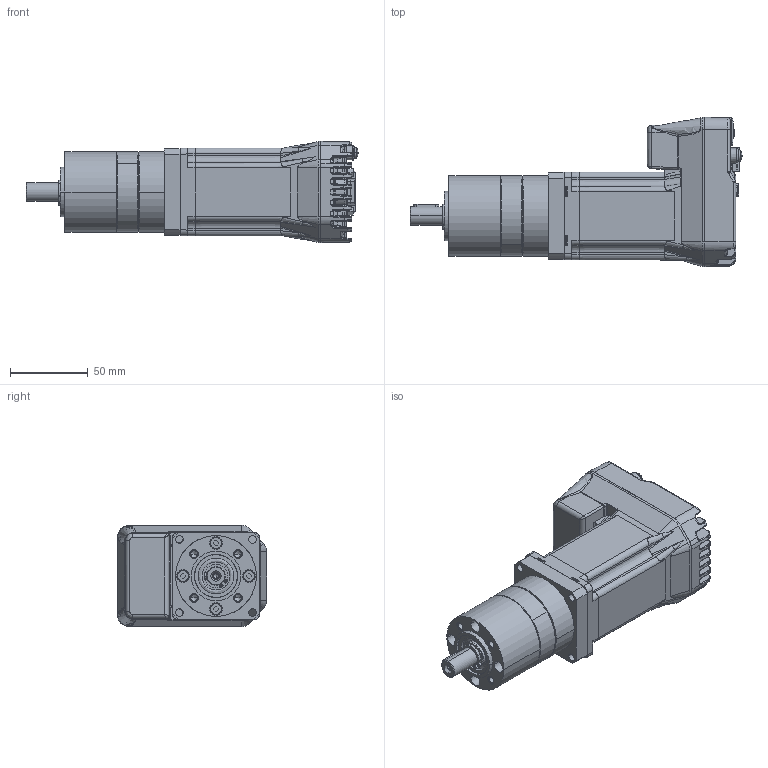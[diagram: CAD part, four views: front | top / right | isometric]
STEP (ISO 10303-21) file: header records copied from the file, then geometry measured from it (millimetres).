
FILE_DESCRIPTION (( 'STEP AP214' ), '1' );
FILE_NAME ('LMD23 + PM52.STEP', '2016-06-02T15:02:50', ( '' ), ( '' ), 'SwSTEP 2.0', 'SolidWorks 2014', '' );
FILE_SCHEMA (( 'AUTOMOTIVE_DESIGN' ));
Length unit declared in the file: millimetre
Products named in the file (17): Coté sortie^PM52 pour EC45Flat-70W; SCHRAUBE_1241978_6; 8006405_DICHTRING_2; 4X4X16_D6885A_2; D471_12X1_5_2; 8102168_ABTRIEB_LK1_KPL_2; GK2152_POS31_2_LAGERBOLZEN_2; 8101171_ABTRIEB_ROHTEIL_AF0_2; DIN998_PS_12X18X1_2; D625-6001-2RS_2; 8006231_LAGERFLANSCH_2; 8006230_ZAHNKRANZ_Z46_2; LMD23 + PM52; LMD23_Part; ADAPT pm52 POUR lmd23_Part; PM52 pour EC45Flat-70W_1 etage; Coté moteur^PM52 pour EC45Flat-70W
Assembly tree (24 placements, depth 5):
  LMD23 + PM52
    PM52 pour EC45Flat-70W_1 etage
      8006230_ZAHNKRANZ_Z46_2
      Coté sortie^PM52 pour EC45Flat-70W
        8006231_LAGERFLANSCH_2
        D625-6001-2RS_2  x2
        DIN998_PS_12X18X1_2  x2
        8102168_ABTRIEB_LK1_KPL_2
          8101171_ABTRIEB_ROHTEIL_AF0_2
          GK2152_POS31_2_LAGERBOLZEN_2  x3
        D471_12X1_5_2
        4X4X16_D6885A_2
        8006405_DICHTRING_2
        SCHRAUBE_1241978_6  x4
      Coté moteur^PM52 pour EC45Flat-70W
        8006405_DICHTRING_2
    ADAPT pm52 POUR lmd23_Part
    LMD23_Part
Bounding box: 213.83 x 96.07 x 65.15 mm (x, y, z)
Volume: 512452.1 mm3; surface area: 113870.6 mm2
Topology: 18 solids, 35 shells, 3007 faces, 7672 edges, 4764 vertices
Faces by surface type: plane 1238, cylinder 945, bspline 587, cone 225, torus 12
Entity records: 161870 total; most frequent: CARTESIAN_POINT 72852, ORIENTED_EDGE 14508, DIRECTION 10242, EDGE_CURVE 7266, VERTEX_POINT 4575, VECTOR 3466, LINE 3466, AXIS2_PLACEMENT_3D 3388
